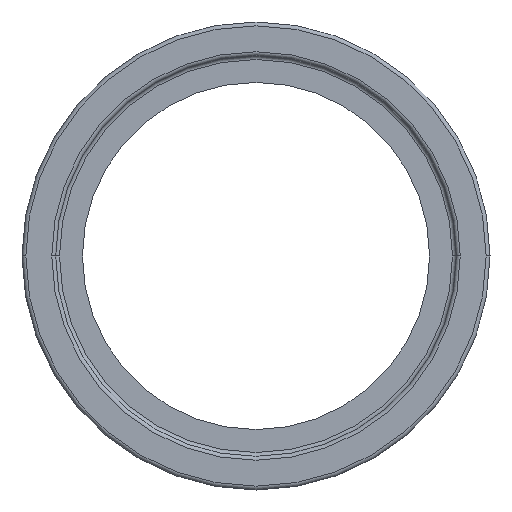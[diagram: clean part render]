
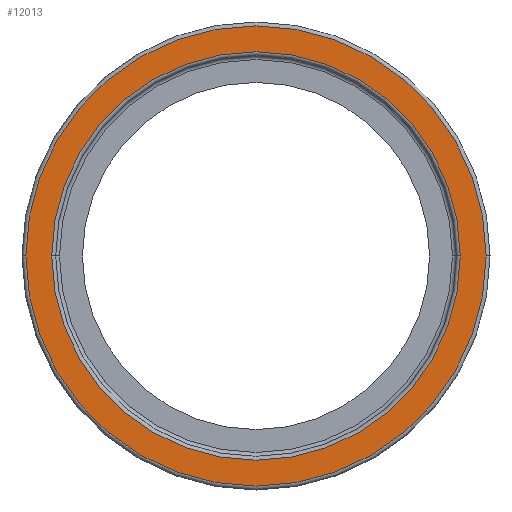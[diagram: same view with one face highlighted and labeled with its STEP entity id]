
A CAD part, left-side view. The second image highlights one B-rep face of the part: STEP entity #12013.
In plain terms, the highlighted planar face has unit normal (-1, 0, 0).
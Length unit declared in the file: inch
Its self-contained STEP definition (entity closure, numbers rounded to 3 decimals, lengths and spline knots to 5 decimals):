
#298 = ORIENTED_EDGE ( 'NONE', *, *, #10413, .T. ) ;
#572 = EDGE_CURVE ( 'NONE', #1636, #5121, #10110, .T. ) ;
#1350 = ORIENTED_EDGE ( 'NONE', *, *, #4466, .F. ) ;
#1636 = VERTEX_POINT ( 'NONE', #8686 ) ;
#1796 = DIRECTION ( 'NONE',  ( 0., 1., 0. ) ) ;
#1808 = EDGE_LOOP ( 'NONE', ( #298, #14078 ) ) ;
#1966 = DIRECTION ( 'NONE',  ( -1., 0., 0. ) ) ;
#2177 = DIRECTION ( 'NONE',  ( 1., 0., 0. ) ) ;
#3042 = FACE_OUTER_BOUND ( 'NONE', #13582, .T. ) ;
#3214 = AXIS2_PLACEMENT_3D ( 'NONE', #4028, #9460, #1796 ) ;
#4028 = CARTESIAN_POINT ( 'NONE',  ( -1.40904, 0., 0. ) ) ;
#4443 = CARTESIAN_POINT ( 'NONE',  ( -1.40904, 1.6885, 0. ) ) ;
#4466 = EDGE_CURVE ( 'NONE', #5121, #1636, #8071, .T. ) ;
#4525 = CARTESIAN_POINT ( 'NONE',  ( -1.40904, -1.6885, 0. ) ) ;
#5121 = VERTEX_POINT ( 'NONE', #12141 ) ;
#5777 = AXIS2_PLACEMENT_3D ( 'NONE', #9448, #13730, #5908 ) ;
#5908 = DIRECTION ( 'NONE',  ( 0., 1., 0. ) ) ;
#6544 = CARTESIAN_POINT ( 'NONE',  ( -1.40904, 0., 0. ) ) ;
#6613 = DIRECTION ( 'NONE',  ( 1., 0., 0. ) ) ;
#7157 = CIRCLE ( 'NONE', #5777, 1.6885 ) ;
#7457 = PLANE ( 'NONE',  #9001 ) ;
#7663 = EDGE_CURVE ( 'NONE', #8782, #10852, #11893, .T. ) ;
#8071 = CIRCLE ( 'NONE', #3214, 1.903 ) ;
#8524 = ORIENTED_EDGE ( 'NONE', *, *, #572, .F. ) ;
#8686 = CARTESIAN_POINT ( 'NONE',  ( -1.40904, 1.903, 0. ) ) ;
#8782 = VERTEX_POINT ( 'NONE', #4525 ) ;
#9001 = AXIS2_PLACEMENT_3D ( 'NONE', #11877, #1966, #10934 ) ;
#9448 = CARTESIAN_POINT ( 'NONE',  ( -1.40904, 0., 0. ) ) ;
#9460 = DIRECTION ( 'NONE',  ( 1., 0., 0. ) ) ;
#9556 = FACE_BOUND ( 'NONE', #1808, .T. ) ;
#10110 = CIRCLE ( 'NONE', #10343, 1.903 ) ;
#10343 = AXIS2_PLACEMENT_3D ( 'NONE', #6544, #6613, #11037 ) ;
#10413 = EDGE_CURVE ( 'NONE', #10852, #8782, #7157, .T. ) ;
#10852 = VERTEX_POINT ( 'NONE', #4443 ) ;
#10934 = DIRECTION ( 'NONE',  ( 0., -1., 0. ) ) ;
#11037 = DIRECTION ( 'NONE',  ( 0., 1., 0. ) ) ;
#11212 = DIRECTION ( 'NONE',  ( 0., 1., 0. ) ) ;
#11877 = CARTESIAN_POINT ( 'NONE',  ( -1.40904, 1.6885, 0. ) ) ;
#11893 = CIRCLE ( 'NONE', #12816, 1.6885 ) ;
#12013 = ADVANCED_FACE ( 'NONE', ( #9556, #3042 ), #7457, .T. ) ;
#12141 = CARTESIAN_POINT ( 'NONE',  ( -1.40904, -1.903, 0. ) ) ;
#12816 = AXIS2_PLACEMENT_3D ( 'NONE', #13175, #2177, #11212 ) ;
#13175 = CARTESIAN_POINT ( 'NONE',  ( -1.40904, 0., 0. ) ) ;
#13582 = EDGE_LOOP ( 'NONE', ( #8524, #1350 ) ) ;
#13730 = DIRECTION ( 'NONE',  ( 1., 0., 0. ) ) ;
#14078 = ORIENTED_EDGE ( 'NONE', *, *, #7663, .T. ) ;
